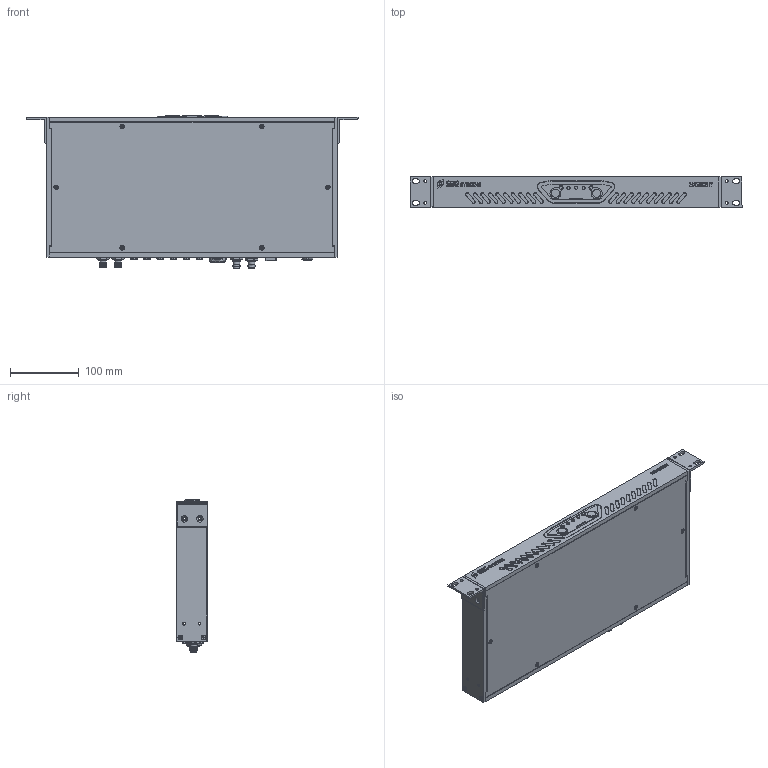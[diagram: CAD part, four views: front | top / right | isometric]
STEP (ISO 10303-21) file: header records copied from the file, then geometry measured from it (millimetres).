
FILE_DESCRIPTION (( 'STEP AP214' ), '1' );
FILE_NAME ('Navsight-Processing-Rack.STEP', '2021-02-05T14:20:06', ( '' ), ( '' ), 'SwSTEP 2.0', 'SolidWorks 2021', '' );
FILE_SCHEMA (( 'AUTOMOTIVE_DESIGN' ));
Length unit declared in the file: millimetre
Products named in the file (1): Navsight-Processing-Rack
Bounding box: 482.61 x 44.1 x 223 mm (x, y, z)
Surface area: 277658.1 mm2 (no closed solid volume)
Topology: 0 solids, 249 shells, 2063 faces, 8618 edges, 6678 vertices
Faces by surface type: plane 908, cylinder 685, cone 334, bspline 132, torus 4
Entity records: 126365 total; most frequent: CARTESIAN_POINT 37166, DIRECTION 12800, ORIENTED_EDGE 12198, EDGE_CURVE 8572, VERTEX_POINT 6678, LINE 4588, VECTOR 4588, AXIS2_PLACEMENT_3D 4106
